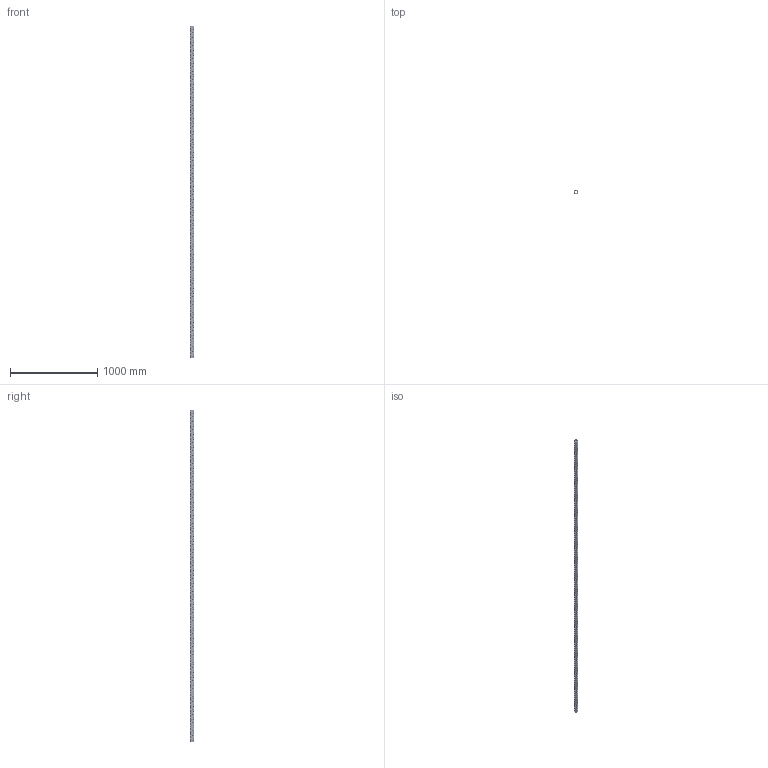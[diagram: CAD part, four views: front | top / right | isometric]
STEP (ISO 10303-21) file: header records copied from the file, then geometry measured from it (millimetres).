
FILE_DESCRIPTION(('CATIA V5 STEP Exchange'),'2;1');
FILE_NAME('U:\Room\唐宝山\EGT002\46-01-010356-01-EGT002-3808.stp','2021-08-25T00:55:56+00:00',('none'),('none'),'CATIA Version 5 Release 21 GA (IN-10)','CATIA V5 STEP AP203','none');
FILE_SCHEMA(('CONFIG_CONTROL_DESIGN'));
Products named in the file (1): 46-01-010356-01-EGT002-3808
Bounding box: 50 x 50 x 3808 mm (x, y, z)
Volume: 2713404.8 mm3; surface area: 1306540 mm2
Topology: 1 solids, 1 shells, 5164 faces, 14216 edges, 8800 vertices
Faces by surface type: cone 3048, cylinder 2090, plane 26
Entity records: 219148 total; most frequent: CARTESIAN_POINT 94863, ORIENTED_EDGE 28432, DIRECTION 19760, EDGE_CURVE 14216, AXIS2_PLACEMENT_3D 9133, VERTEX_POINT 8800, EDGE_LOOP 6944, VECTOR 5464
